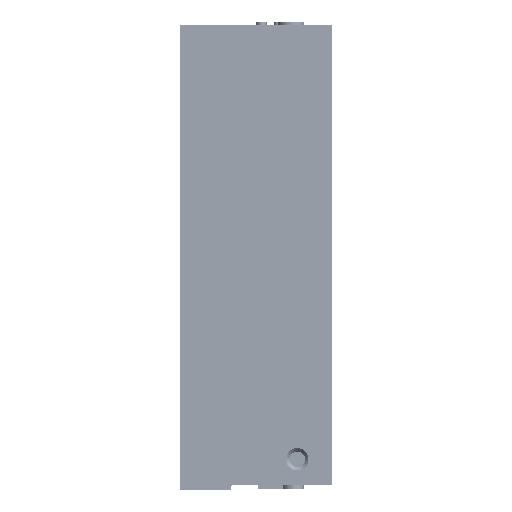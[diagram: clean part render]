
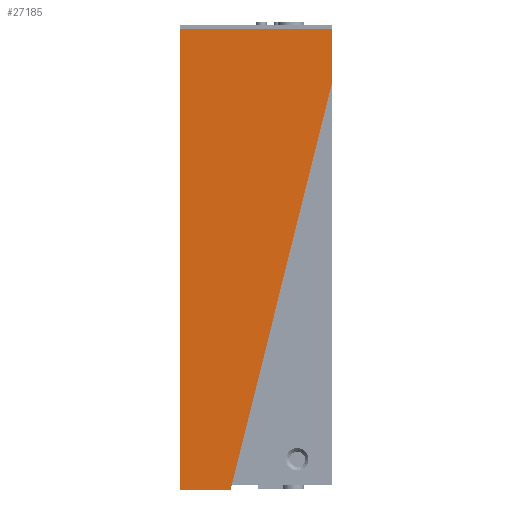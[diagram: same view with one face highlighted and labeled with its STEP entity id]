
A CAD part, left-side view. The second image highlights one B-rep face of the part: STEP entity #27185.
In plain terms, the highlighted planar face has unit normal (-1, 0, 0) as drawn and (1, 0, 0) by its records, which use the part's own axes.
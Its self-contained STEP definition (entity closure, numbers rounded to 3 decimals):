
#149 = CARTESIAN_POINT ( 'NONE',  ( 222.24, 42.63, -132.8 ) ) ;
#506 = VERTEX_POINT ( 'NONE', #10755 ) ;
#1650 = EDGE_CURVE ( 'NONE', #6280, #7055, #61390, .T. ) ;
#2554 = CARTESIAN_POINT ( 'NONE',  ( 222.24, 42.63, -1. ) ) ;
#6169 = EDGE_CURVE ( 'NONE', #24993, #7055, #64209, .T. ) ;
#6280 = VERTEX_POINT ( 'NONE', #2554 ) ;
#7055 = VERTEX_POINT ( 'NONE', #66713 ) ;
#9757 = EDGE_LOOP ( 'NONE', ( #43679, #35435, #18372, #59600, #33867 ) ) ;
#10755 = CARTESIAN_POINT ( 'NONE',  ( 222.24, 42.63, -16.175 ) ) ;
#11212 = CARTESIAN_POINT ( 'NONE',  ( 222.24, 42.63, -16.175 ) ) ;
#11700 = PLANE ( 'NONE',  #16237 ) ;
#15962 = CARTESIAN_POINT ( 'NONE',  ( 222.24, -1., -132.8 ) ) ;
#16237 = AXIS2_PLACEMENT_3D ( 'NONE', #45056, #33136, #16967 ) ;
#16967 = DIRECTION ( 'NONE',  ( 0., 0., -1. ) ) ;
#17342 = CARTESIAN_POINT ( 'NONE',  ( 222.24, -1., -132.8 ) ) ;
#18323 = VECTOR ( 'NONE', #31241, 1000. ) ;
#18372 = ORIENTED_EDGE ( 'NONE', *, *, #1650, .T. ) ;
#19779 = EDGE_CURVE ( 'NONE', #506, #6280, #57241, .T. ) ;
#22771 = EDGE_CURVE ( 'NONE', #63628, #24993, #53232, .T. ) ;
#24993 = VERTEX_POINT ( 'NONE', #15962 ) ;
#26004 = DIRECTION ( 'NONE',  ( 0., -0.242, -0.97 ) ) ;
#27185 = ADVANCED_FACE ( 'Face7', ( #27838 ), #11700, .T. ) ;
#27838 = FACE_OUTER_BOUND ( 'NONE', #9757, .T. ) ;
#29184 = CARTESIAN_POINT ( 'NONE',  ( 222.24, 13.5, -132.8 ) ) ;
#31241 = DIRECTION ( 'NONE',  ( 0., 0., 1. ) ) ;
#33136 = DIRECTION ( 'NONE',  ( 1., 0., 0. ) ) ;
#33867 = ORIENTED_EDGE ( 'NONE', *, *, #22771, .F. ) ;
#35408 = CARTESIAN_POINT ( 'NONE',  ( 222.24, 42.63, -1. ) ) ;
#35435 = ORIENTED_EDGE ( 'NONE', *, *, #19779, .T. ) ;
#37756 = DIRECTION ( 'NONE',  ( 0., -1., 0. ) ) ;
#38800 = DIRECTION ( 'NONE',  ( 0., 0., 1. ) ) ;
#42786 = VECTOR ( 'NONE', #26004, 1000. ) ;
#42863 = LINE ( 'NONE', #11212, #42786 ) ;
#43679 = ORIENTED_EDGE ( 'NONE', *, *, #67363, .F. ) ;
#45056 = CARTESIAN_POINT ( 'NONE',  ( 222.24, 42.63, -132.8 ) ) ;
#50813 = VECTOR ( 'NONE', #38800, 1000. ) ;
#50838 = DIRECTION ( 'NONE',  ( 0., -1., 0. ) ) ;
#53232 = LINE ( 'NONE', #149, #59283 ) ;
#57241 = LINE ( 'NONE', #62879, #18323 ) ;
#59283 = VECTOR ( 'NONE', #37756, 1000. ) ;
#59600 = ORIENTED_EDGE ( 'NONE', *, *, #6169, .F. ) ;
#61390 = LINE ( 'NONE', #35408, #64877 ) ;
#62879 = CARTESIAN_POINT ( 'NONE',  ( 222.24, 42.63, -132.8 ) ) ;
#63628 = VERTEX_POINT ( 'NONE', #29184 ) ;
#64209 = LINE ( 'NONE', #17342, #50813 ) ;
#64877 = VECTOR ( 'NONE', #50838, 1000. ) ;
#66713 = CARTESIAN_POINT ( 'NONE',  ( 222.24, -1., -1. ) ) ;
#67363 = EDGE_CURVE ( 'NONE', #506, #63628, #42863, .T. ) ;
